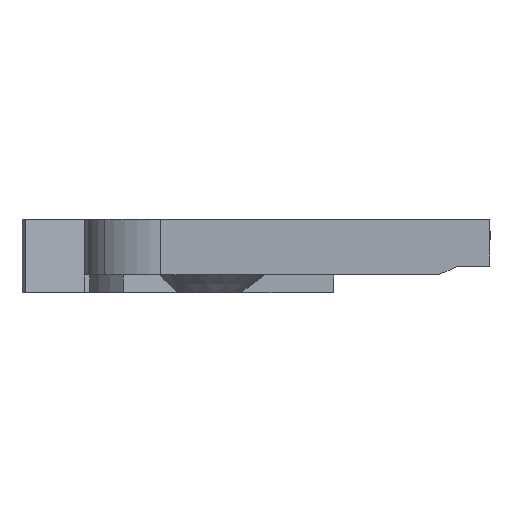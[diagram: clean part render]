
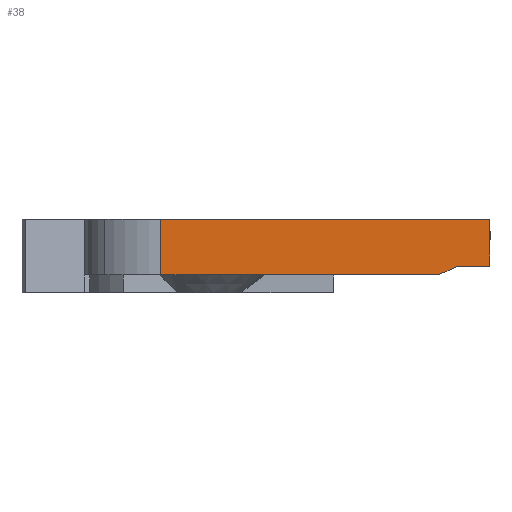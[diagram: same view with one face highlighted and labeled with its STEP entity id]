
A CAD part, left-side view. The second image highlights one B-rep face of the part: STEP entity #38.
In plain terms, the highlighted planar face has unit normal (-1, 0, 0).
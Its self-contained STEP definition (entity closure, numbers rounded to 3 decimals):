
#38 = ADVANCED_FACE ( 'NONE', ( #395 ), #1693, .F. ) ;
#114 = LINE ( 'NONE', #3367, #346 ) ;
#235 = VECTOR ( 'NONE', #2513, 1000. ) ;
#316 = LINE ( 'NONE', #1960, #712 ) ;
#346 = VECTOR ( 'NONE', #1363, 1000. ) ;
#392 = ORIENTED_EDGE ( 'NONE', *, *, #2512, .T. ) ;
#395 = FACE_OUTER_BOUND ( 'NONE', #1054, .T. ) ;
#504 = EDGE_CURVE ( 'NONE', #3458, #1659, #3847, .T. ) ;
#712 = VECTOR ( 'NONE', #2961, 1000. ) ;
#906 = ORIENTED_EDGE ( 'NONE', *, *, #3125, .F. ) ;
#982 = CARTESIAN_POINT ( 'NONE',  ( -89., -36.65, -3.3 ) ) ;
#1026 = EDGE_CURVE ( 'NONE', #3642, #3458, #114, .T. ) ;
#1049 = VERTEX_POINT ( 'NONE', #2734 ) ;
#1054 = EDGE_LOOP ( 'NONE', ( #392, #2372, #906, #3602, #2724, #3347 ) ) ;
#1353 = EDGE_CURVE ( 'NONE', #4022, #1049, #2334, .T. ) ;
#1362 = LINE ( 'NONE', #3654, #1595 ) ;
#1363 = DIRECTION ( 'NONE',  ( 0., 1., 0. ) ) ;
#1420 = VERTEX_POINT ( 'NONE', #4075 ) ;
#1500 = DIRECTION ( 'NONE',  ( 0., -1., 0. ) ) ;
#1516 = DIRECTION ( 'NONE',  ( 1., 0., 0. ) ) ;
#1539 = CARTESIAN_POINT ( 'NONE',  ( -89., -36.65, -3.3 ) ) ;
#1595 = VECTOR ( 'NONE', #4025, 1000. ) ;
#1659 = VERTEX_POINT ( 'NONE', #3681 ) ;
#1693 = PLANE ( 'NONE',  #1832 ) ;
#1832 = AXIS2_PLACEMENT_3D ( 'NONE', #1539, #1516, #1500 ) ;
#1960 = CARTESIAN_POINT ( 'NONE',  ( -89., -36.65, -3.3 ) ) ;
#2203 = CARTESIAN_POINT ( 'NONE',  ( -89., -29.139, -1.3 ) ) ;
#2209 = CARTESIAN_POINT ( 'NONE',  ( -89., -36.65, 9.5 ) ) ;
#2334 = LINE ( 'NONE', #2209, #235 ) ;
#2372 = ORIENTED_EDGE ( 'NONE', *, *, #1353, .T. ) ;
#2471 = VECTOR ( 'NONE', #3357, 1000. ) ;
#2512 = EDGE_CURVE ( 'NONE', #3642, #4022, #316, .T. ) ;
#2513 = DIRECTION ( 'NONE',  ( 0., 1., 0. ) ) ;
#2724 = ORIENTED_EDGE ( 'NONE', *, *, #504, .F. ) ;
#2734 = CARTESIAN_POINT ( 'NONE',  ( -89., 39.05, 9.5 ) ) ;
#2860 = VECTOR ( 'NONE', #3511, 1000. ) ;
#2961 = DIRECTION ( 'NONE',  ( 0., 0., 1. ) ) ;
#3125 = EDGE_CURVE ( 'NONE', #1420, #1049, #1362, .T. ) ;
#3309 = CARTESIAN_POINT ( 'NONE',  ( -89., -36.65, -1.3 ) ) ;
#3347 = ORIENTED_EDGE ( 'NONE', *, *, #1026, .F. ) ;
#3357 = DIRECTION ( 'NONE',  ( 0., 1., 0. ) ) ;
#3367 = CARTESIAN_POINT ( 'NONE',  ( -89., -29.139, -1.3 ) ) ;
#3458 = VERTEX_POINT ( 'NONE', #2203 ) ;
#3511 = DIRECTION ( 'NONE',  ( 0., 0.906, -0.423 ) ) ;
#3597 = EDGE_CURVE ( 'NONE', #1659, #1420, #3607, .T. ) ;
#3602 = ORIENTED_EDGE ( 'NONE', *, *, #3597, .F. ) ;
#3607 = LINE ( 'NONE', #982, #2471 ) ;
#3642 = VERTEX_POINT ( 'NONE', #3309 ) ;
#3654 = CARTESIAN_POINT ( 'NONE',  ( -89., 39.05, -3.3 ) ) ;
#3681 = CARTESIAN_POINT ( 'NONE',  ( -89., -24.85, -3.3 ) ) ;
#3847 = LINE ( 'NONE', #3868, #2860 ) ;
#3868 = CARTESIAN_POINT ( 'NONE',  ( -89., -24.85, -3.3 ) ) ;
#4022 = VERTEX_POINT ( 'NONE', #4191 ) ;
#4025 = DIRECTION ( 'NONE',  ( 0., 0., 1. ) ) ;
#4075 = CARTESIAN_POINT ( 'NONE',  ( -89., 39.05, -3.3 ) ) ;
#4191 = CARTESIAN_POINT ( 'NONE',  ( -89., -36.65, 9.5 ) ) ;
